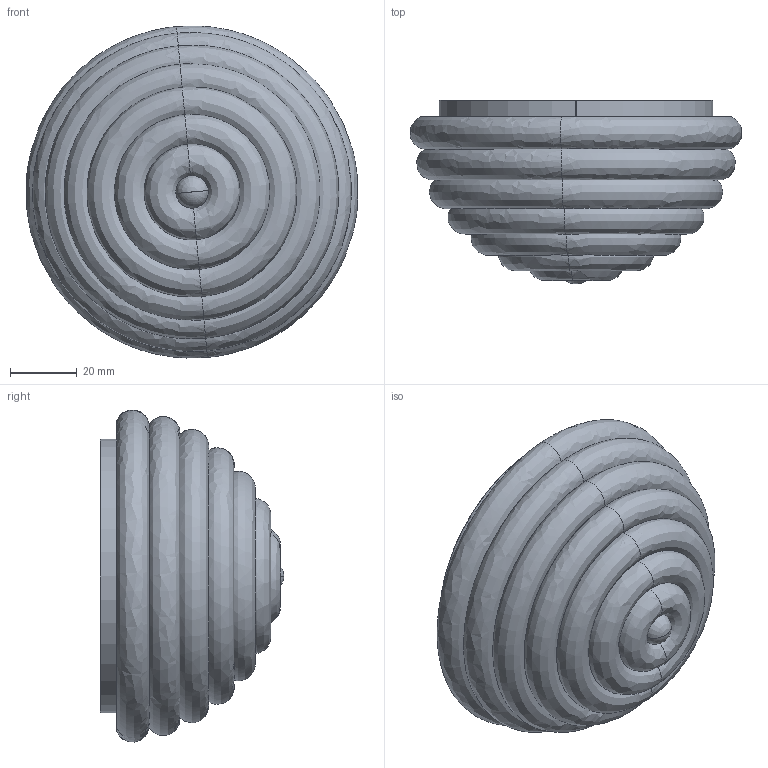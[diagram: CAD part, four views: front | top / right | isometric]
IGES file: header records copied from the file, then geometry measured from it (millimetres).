
Start section: SolidWorks IGES file using analytic representation for surfaces
Global section: file name: C:\Users\Agustin\Desktop\ARNOLD\2024 SEPTIEMBRE\2D\HADO\2D-3D T1331\HADO_T1331.IGS; native system: SolidWorks 2018; preprocessor: SolidWorks 2018; author: Agustin; date: 240918.101829; units: millimetre
Bounding box: 99.19 x 55 x 99.39 mm (x, y, z)
Surface area: 41472.2 mm2 (no closed solid volume)
Topology: 0 solids, 0 shells, 30 faces, 548 edges, 547 vertices
Faces by surface type: bspline 20, revolution 10
